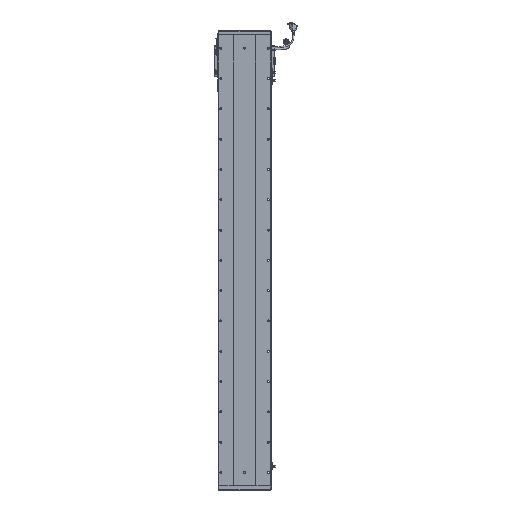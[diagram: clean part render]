
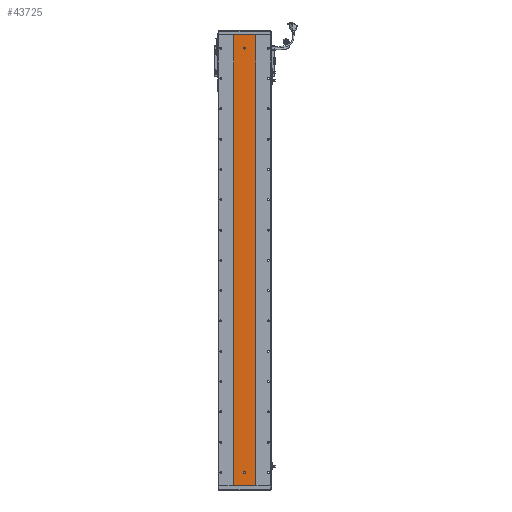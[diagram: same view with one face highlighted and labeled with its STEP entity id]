
A CAD part, front view. The second image highlights one B-rep face of the part: STEP entity #43725.
In plain terms, the highlighted planar face has unit normal (0, -1, 0).
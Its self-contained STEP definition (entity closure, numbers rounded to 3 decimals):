
#129 = AXIS2_PLACEMENT_3D ( 'NONE', #54579, #70086, #46956 ) ;
#362 = LINE ( 'NONE', #60454, #77272 ) ;
#1377 = DIRECTION ( 'NONE',  ( 0., -1., 0. ) ) ;
#4442 = ORIENTED_EDGE ( 'NONE', *, *, #65784, .F. ) ;
#5345 = CARTESIAN_POINT ( 'NONE',  ( 3277.529, 1415.701, 45. ) ) ;
#7757 = EDGE_CURVE ( 'NONE', #90726, #64956, #12559, .T. ) ;
#8321 = DIRECTION ( 'NONE',  ( 0., 0., -1. ) ) ;
#8607 = ORIENTED_EDGE ( 'NONE', *, *, #76868, .F. ) ;
#8679 = VERTEX_POINT ( 'NONE', #20311 ) ;
#10512 = DIRECTION ( 'NONE',  ( 0., 1., 0. ) ) ;
#10786 = EDGE_LOOP ( 'NONE', ( #58460, #30903, #4442, #16742 ) ) ;
#11492 = CARTESIAN_POINT ( 'NONE',  ( 3244.748, 1415.701, 1487. ) ) ;
#11622 = ORIENTED_EDGE ( 'NONE', *, *, #82499, .F. ) ;
#12559 = LINE ( 'NONE', #58110, #26674 ) ;
#13077 = EDGE_CURVE ( 'NONE', #41849, #34558, #33363, .T. ) ;
#13380 = AXIS2_PLACEMENT_3D ( 'NONE', #73946, #89418, #74579 ) ;
#14217 = CARTESIAN_POINT ( 'NONE',  ( 3280.529, 1415.701, 1446.5 ) ) ;
#15112 = VERTEX_POINT ( 'NONE', #52330 ) ;
#15560 = FACE_BOUND ( 'NONE', #61343, .T. ) ;
#16196 = LINE ( 'NONE', #36629, #44637 ) ;
#16742 = ORIENTED_EDGE ( 'NONE', *, *, #70074, .T. ) ;
#18731 = DIRECTION ( 'NONE',  ( 0., 0., 1. ) ) ;
#20223 = FACE_BOUND ( 'NONE', #81499, .T. ) ;
#20311 = CARTESIAN_POINT ( 'NONE',  ( 3316.311, 1415.701, 0. ) ) ;
#20928 = CIRCLE ( 'NONE', #13380, 3. ) ;
#22554 = CARTESIAN_POINT ( 'NONE',  ( 3283.529, 1415.701, 45. ) ) ;
#22677 = CARTESIAN_POINT ( 'NONE',  ( 3280.529, 1415.701, 1440.5 ) ) ;
#22991 = AXIS2_PLACEMENT_3D ( 'NONE', #90690, #59716, #82482 ) ;
#23976 = CARTESIAN_POINT ( 'NONE',  ( 3244.748, 1415.701, 0. ) ) ;
#26674 = VECTOR ( 'NONE', #18731, 1000. ) ;
#27205 = DIRECTION ( 'NONE',  ( 0., 0., -1. ) ) ;
#28490 = ORIENTED_EDGE ( 'NONE', *, *, #13077, .F. ) ;
#29368 = CARTESIAN_POINT ( 'NONE',  ( 3277.529, 1415.701, 42. ) ) ;
#29901 = EDGE_CURVE ( 'NONE', #34558, #90726, #44675, .T. ) ;
#29943 = ORIENTED_EDGE ( 'NONE', *, *, #39159, .F. ) ;
#30903 = ORIENTED_EDGE ( 'NONE', *, *, #61397, .F. ) ;
#32691 = DIRECTION ( 'NONE',  ( 0., 0., 1. ) ) ;
#33363 = CIRCLE ( 'NONE', #60681, 3. ) ;
#34558 = VERTEX_POINT ( 'NONE', #39702 ) ;
#34879 = VERTEX_POINT ( 'NONE', #22677 ) ;
#35115 = CIRCLE ( 'NONE', #129, 3. ) ;
#36629 = CARTESIAN_POINT ( 'NONE',  ( 3244.748, 1415.701, 1487. ) ) ;
#36849 = ORIENTED_EDGE ( 'NONE', *, *, #7757, .F. ) ;
#38252 = DIRECTION ( 'NONE',  ( 0., 0., -1. ) ) ;
#38403 = AXIS2_PLACEMENT_3D ( 'NONE', #11492, #10512, #32691 ) ;
#39159 = EDGE_CURVE ( 'NONE', #58958, #34879, #35115, .T. ) ;
#39702 = CARTESIAN_POINT ( 'NONE',  ( 3280.529, 1415.701, 39. ) ) ;
#39940 = VERTEX_POINT ( 'NONE', #96294 ) ;
#41009 = VERTEX_POINT ( 'NONE', #74001 ) ;
#41849 = VERTEX_POINT ( 'NONE', #29368 ) ;
#43725 = ADVANCED_FACE ( 'NONE', ( #15560, #20223, #69998 ), #64120, .F. ) ;
#44637 = VECTOR ( 'NONE', #48909, 1000. ) ;
#44675 = CIRCLE ( 'NONE', #22991, 3. ) ;
#46161 = CARTESIAN_POINT ( 'NONE',  ( 3244.748, 1415.701, 1487. ) ) ;
#46956 = DIRECTION ( 'NONE',  ( 0., 0., -1. ) ) ;
#48909 = DIRECTION ( 'NONE',  ( 1., 0., 0. ) ) ;
#52330 = CARTESIAN_POINT ( 'NONE',  ( 3316.311, 1415.701, 1487. ) ) ;
#52392 = CARTESIAN_POINT ( 'NONE',  ( 3280.529, 1415.701, 45. ) ) ;
#52984 = VERTEX_POINT ( 'NONE', #63032 ) ;
#54579 = CARTESIAN_POINT ( 'NONE',  ( 3280.529, 1415.701, 1443.5 ) ) ;
#58110 = CARTESIAN_POINT ( 'NONE',  ( 3283.529, 1415.701, 45. ) ) ;
#58460 = ORIENTED_EDGE ( 'NONE', *, *, #76006, .T. ) ;
#58958 = VERTEX_POINT ( 'NONE', #14217 ) ;
#59716 = DIRECTION ( 'NONE',  ( 0., -1., 0. ) ) ;
#60454 = CARTESIAN_POINT ( 'NONE',  ( 3316.311, 1415.701, 1487. ) ) ;
#60681 = AXIS2_PLACEMENT_3D ( 'NONE', #88650, #66229, #27205 ) ;
#61063 = CARTESIAN_POINT ( 'NONE',  ( 3283.529, 1415.701, 42. ) ) ;
#61343 = EDGE_LOOP ( 'NONE', ( #28490, #8607, #94936, #36849, #92997 ) ) ;
#61397 = EDGE_CURVE ( 'NONE', #15112, #8679, #362, .T. ) ;
#61410 = DIRECTION ( 'NONE',  ( 0., 0., -1. ) ) ;
#63032 = CARTESIAN_POINT ( 'NONE',  ( 3244.748, 1415.701, 1487. ) ) ;
#64120 = PLANE ( 'NONE',  #38403 ) ;
#64956 = VERTEX_POINT ( 'NONE', #22554 ) ;
#65784 = EDGE_CURVE ( 'NONE', #52984, #15112, #16196, .T. ) ;
#66229 = DIRECTION ( 'NONE',  ( 0., -1., 0. ) ) ;
#68001 = VECTOR ( 'NONE', #81075, 1000. ) ;
#69998 = FACE_OUTER_BOUND ( 'NONE', #10786, .T. ) ;
#70074 = EDGE_CURVE ( 'NONE', #52984, #41009, #77174, .T. ) ;
#70086 = DIRECTION ( 'NONE',  ( 0., -1., 0. ) ) ;
#70518 = EDGE_CURVE ( 'NONE', #64956, #39940, #86525, .T. ) ;
#70567 = VECTOR ( 'NONE', #83828, 1000. ) ;
#73946 = CARTESIAN_POINT ( 'NONE',  ( 3280.529, 1415.701, 1443.5 ) ) ;
#74001 = CARTESIAN_POINT ( 'NONE',  ( 3244.748, 1415.701, 0. ) ) ;
#74579 = DIRECTION ( 'NONE',  ( 0., 0., -1. ) ) ;
#76006 = EDGE_CURVE ( 'NONE', #41009, #8679, #85863, .T. ) ;
#76868 = EDGE_CURVE ( 'NONE', #39940, #41849, #95194, .T. ) ;
#77174 = LINE ( 'NONE', #46161, #96096 ) ;
#77272 = VECTOR ( 'NONE', #38252, 1000. ) ;
#81075 = DIRECTION ( 'NONE',  ( 0., 0., -1. ) ) ;
#81499 = EDGE_LOOP ( 'NONE', ( #11622, #29943 ) ) ;
#82482 = DIRECTION ( 'NONE',  ( 0., 0., -1. ) ) ;
#82499 = EDGE_CURVE ( 'NONE', #34879, #58958, #20928, .T. ) ;
#83828 = DIRECTION ( 'NONE',  ( 1., 0., 0. ) ) ;
#84182 = AXIS2_PLACEMENT_3D ( 'NONE', #52392, #1377, #8321 ) ;
#85863 = LINE ( 'NONE', #23976, #70567 ) ;
#86525 = CIRCLE ( 'NONE', #84182, 3. ) ;
#88650 = CARTESIAN_POINT ( 'NONE',  ( 3280.529, 1415.701, 42. ) ) ;
#89418 = DIRECTION ( 'NONE',  ( 0., -1., 0. ) ) ;
#90690 = CARTESIAN_POINT ( 'NONE',  ( 3280.529, 1415.701, 42. ) ) ;
#90726 = VERTEX_POINT ( 'NONE', #61063 ) ;
#92997 = ORIENTED_EDGE ( 'NONE', *, *, #29901, .F. ) ;
#94936 = ORIENTED_EDGE ( 'NONE', *, *, #70518, .F. ) ;
#95194 = LINE ( 'NONE', #5345, #68001 ) ;
#96096 = VECTOR ( 'NONE', #61410, 1000. ) ;
#96294 = CARTESIAN_POINT ( 'NONE',  ( 3277.529, 1415.701, 45. ) ) ;
